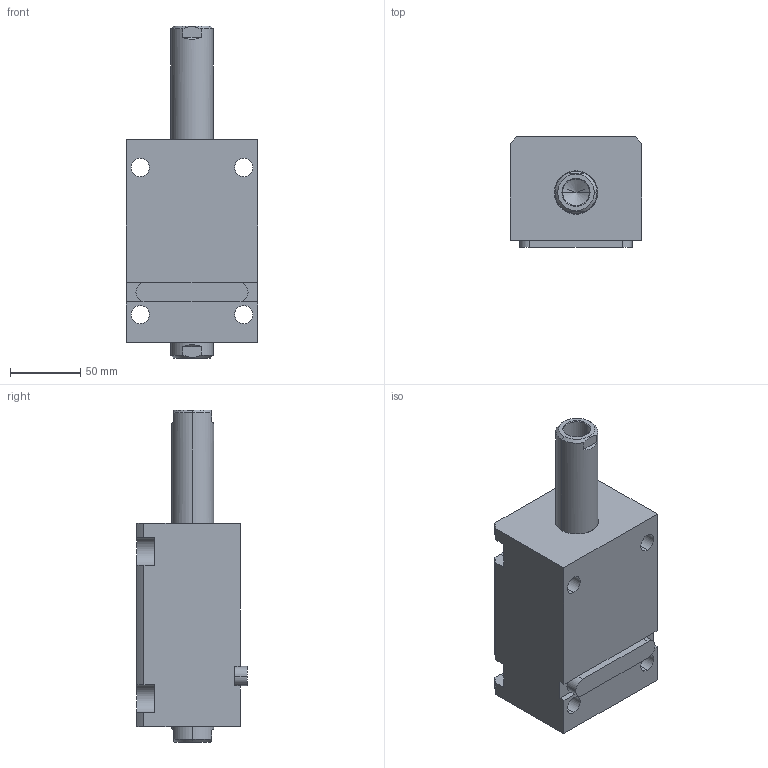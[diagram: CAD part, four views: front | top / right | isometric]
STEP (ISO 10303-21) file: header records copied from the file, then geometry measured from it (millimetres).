
FILE_DESCRIPTION (( 'STEP AP203' ), '1' );
FILE_NAME ('CHTB-LW50-70N.STEP', '2018-05-18T08:43:01', ( '' ), ( '' ), 'SwSTEP 2.0', 'SolidWorks 2015', '' );
FILE_SCHEMA (( 'CONFIG_CONTROL_DESIGN' ));
Length unit declared in the file: millimetre
Products named in the file (4): CHTM-SDMA50QG; CHTB-LW50-70N; 活塞杆LW50-70N; 掛极LW50-70N
Assembly tree (3 placements, depth 2):
  CHTB-LW50-70N
    掛极LW50-70N
    活塞杆LW50-70N
    CHTM-SDMA50QG
Bounding box: 94 x 79 x 237 mm (x, y, z)
Volume: 912021.3 mm3; surface area: 141491 mm2
Topology: 3 solids, 3 shells, 221 faces, 588 edges, 385 vertices
Faces by surface type: cylinder 102, plane 58, cone 31, torus 16, bspline 14
Entity records: 11831 total; most frequent: CARTESIAN_POINT 6126, ORIENTED_EDGE 1160, DIRECTION 1056, EDGE_CURVE 580, AXIS2_PLACEMENT_3D 416, VERTEX_POINT 385, EDGE_LOOP 257, VECTOR 224
